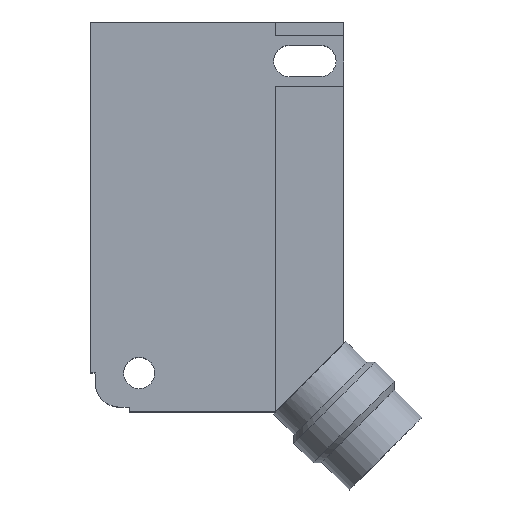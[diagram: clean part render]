
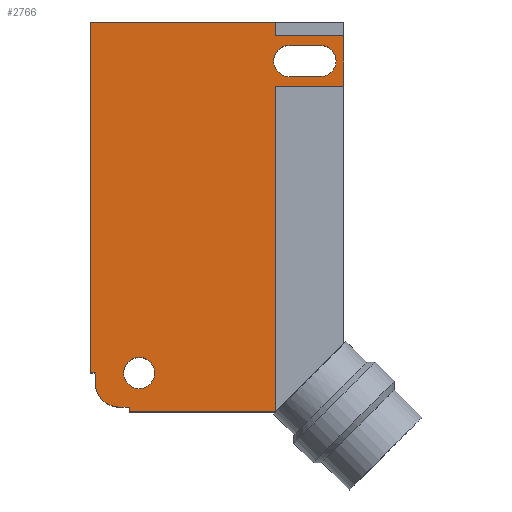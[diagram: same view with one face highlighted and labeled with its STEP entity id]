
A CAD part, top view. The second image highlights one B-rep face of the part: STEP entity #2766.
In plain terms, the highlighted planar face has unit normal (0, 0, 1).
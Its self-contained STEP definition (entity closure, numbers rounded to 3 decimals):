
#1687=CARTESIAN_POINT('',(13.005,18.6,6.));
#1688=VERTEX_POINT('',#1687);
#1695=CARTESIAN_POINT('',(13.005,13.4,6.));
#1696=VERTEX_POINT('',#1695);
#1697=CARTESIAN_POINT('',(13.005,18.6,6.));
#1698=DIRECTION('',(0.0,-1.0,0.0));
#1699=VECTOR('',#1698,5.2);
#1700=LINE('',#1697,#1699);
#1701=EDGE_CURVE('',#1688,#1696,#1700,.T.);
#2152=CARTESIAN_POINT('',(-12.995,-16.,6.));
#2153=VERTEX_POINT('',#2152);
#2160=CARTESIAN_POINT('',(-12.995,20.0,6.));
#2161=VERTEX_POINT('',#2160);
#2162=CARTESIAN_POINT('',(-12.995,-16.0,6.));
#2163=DIRECTION('',(0.0,1.0,0.0));
#2164=VECTOR('',#2163,36.0);
#2165=LINE('',#2162,#2164);
#2166=EDGE_CURVE('',#2153,#2161,#2165,.T.);
#2516=CARTESIAN_POINT('',(6.005,18.6,6.));
#2517=VERTEX_POINT('',#2516);
#2524=CARTESIAN_POINT('',(13.005,18.6,6.));
#2525=DIRECTION('',(-1.0,0.0,0.0));
#2526=VECTOR('',#2525,7.);
#2527=LINE('',#2524,#2526);
#2528=EDGE_CURVE('',#1688,#2517,#2527,.T.);
#2538=CARTESIAN_POINT('',(6.005,20.,6.));
#2539=VERTEX_POINT('',#2538);
#2548=CARTESIAN_POINT('',(6.005,18.6,6.));
#2549=DIRECTION('',(0.0,1.0,0.0));
#2550=VECTOR('',#2549,1.4);
#2551=LINE('',#2548,#2550);
#2552=EDGE_CURVE('',#2517,#2539,#2551,.T.);
#2587=CARTESIAN_POINT('',(6.005,13.4,6.));
#2588=VERTEX_POINT('',#2587);
#2589=CARTESIAN_POINT('',(6.005,13.4,6.));
#2590=DIRECTION('',(1.0,0.0,0.0));
#2591=VECTOR('',#2590,7.);
#2592=LINE('',#2589,#2591);
#2593=EDGE_CURVE('',#2588,#1696,#2592,.T.);
#2624=CARTESIAN_POINT('',(6.005,-20.0,6.));
#2625=VERTEX_POINT('',#2624);
#2626=CARTESIAN_POINT('',(6.005,-20.0,6.));
#2627=DIRECTION('',(0.0,1.0,0.0));
#2628=VECTOR('',#2627,33.4);
#2629=LINE('',#2626,#2628);
#2630=EDGE_CURVE('',#2625,#2588,#2629,.T.);
#2653=CARTESIAN_POINT('',(6.505,10.,6.));
#2654=DIRECTION('',(0.0,0.0,1.0));
#2655=DIRECTION('',(1.0,0.0,0.0));
#2656=AXIS2_PLACEMENT_3D('',#2653,#2654,#2655);
#2657=PLANE('',#2656);
#2658=ORIENTED_EDGE('',*,*,#2528,.T.);
#2659=ORIENTED_EDGE('',*,*,#2552,.T.);
#2660=CARTESIAN_POINT('',(-12.995,20.0,6.));
#2661=DIRECTION('',(1.0,0.0,0.0));
#2662=VECTOR('',#2661,19.);
#2663=LINE('',#2660,#2662);
#2664=EDGE_CURVE('',#2161,#2539,#2663,.T.);
#2665=ORIENTED_EDGE('',*,*,#2664,.F.);
#2666=ORIENTED_EDGE('',*,*,#2166,.F.);
#2667=CARTESIAN_POINT('',(-12.495,-16.,6.));
#2668=VERTEX_POINT('',#2667);
#2669=CARTESIAN_POINT('',(-12.995,-16.,6.));
#2670=DIRECTION('',(1.0,0.0,0.0));
#2671=VECTOR('',#2670,0.5);
#2672=LINE('',#2669,#2671);
#2673=EDGE_CURVE('',#2153,#2668,#2672,.T.);
#2674=ORIENTED_EDGE('',*,*,#2673,.T.);
#2675=CARTESIAN_POINT('',(-12.495,-17.0,6.));
#2676=VERTEX_POINT('',#2675);
#2677=CARTESIAN_POINT('',(-12.495,-16.,6.));
#2678=DIRECTION('',(0.0,-1.0,0.0));
#2679=VECTOR('',#2678,1.);
#2680=LINE('',#2677,#2679);
#2681=EDGE_CURVE('',#2668,#2676,#2680,.T.);
#2682=ORIENTED_EDGE('',*,*,#2681,.T.);
#2683=CARTESIAN_POINT('',(-9.995,-19.5,6.));
#2684=VERTEX_POINT('',#2683);
#2685=CARTESIAN_POINT('',(-9.995,-17.0,6.));
#2686=DIRECTION('',(0.0,0.0,1.0));
#2687=DIRECTION('',(-1.0,0.0,0.0));
#2688=AXIS2_PLACEMENT_3D('',#2685,#2686,#2687);
#2689=CIRCLE('',#2688,2.5);
#2690=EDGE_CURVE('',#2676,#2684,#2689,.T.);
#2691=ORIENTED_EDGE('',*,*,#2690,.T.);
#2692=CARTESIAN_POINT('',(-8.995,-19.5,6.));
#2693=VERTEX_POINT('',#2692);
#2694=CARTESIAN_POINT('',(-9.995,-19.5,6.));
#2695=DIRECTION('',(1.0,0.0,0.0));
#2696=VECTOR('',#2695,1.0);
#2697=LINE('',#2694,#2696);
#2698=EDGE_CURVE('',#2684,#2693,#2697,.T.);
#2699=ORIENTED_EDGE('',*,*,#2698,.T.);
#2700=CARTESIAN_POINT('',(-8.995,-20.0,6.));
#2701=VERTEX_POINT('',#2700);
#2702=CARTESIAN_POINT('',(-8.995,-19.5,6.));
#2703=DIRECTION('',(0.0,-1.0,0.0));
#2704=VECTOR('',#2703,0.5);
#2705=LINE('',#2702,#2704);
#2706=EDGE_CURVE('',#2693,#2701,#2705,.T.);
#2707=ORIENTED_EDGE('',*,*,#2706,.T.);
#2708=CARTESIAN_POINT('',(6.005,-20.0,6.));
#2709=DIRECTION('',(-1.0,0.0,0.0));
#2710=VECTOR('',#2709,15.);
#2711=LINE('',#2708,#2710);
#2712=EDGE_CURVE('',#2625,#2701,#2711,.T.);
#2713=ORIENTED_EDGE('',*,*,#2712,.F.);
#2714=ORIENTED_EDGE('',*,*,#2630,.T.);
#2715=ORIENTED_EDGE('',*,*,#2593,.T.);
#2716=ORIENTED_EDGE('',*,*,#1701,.F.);
#2717=EDGE_LOOP('',(#2658,#2659,#2665,#2666,#2674,#2682,#2691,#2699,#2707,#2713,#2714,#2715,#2716));
#2718=FACE_OUTER_BOUND('',#2717,.T.);
#2719=CARTESIAN_POINT('',(-6.395,-16.,6.));
#2720=VERTEX_POINT('',#2719);
#2721=CARTESIAN_POINT('',(-7.995,-16.,6.));
#2722=DIRECTION('',(0.0,0.0,-1.0));
#2723=DIRECTION('',(1.0,0.0,0.0));
#2724=AXIS2_PLACEMENT_3D('',#2721,#2722,#2723);
#2725=CIRCLE('',#2724,1.6);
#2726=EDGE_CURVE('',#2720,#2720,#2725,.T.);
#2727=ORIENTED_EDGE('',*,*,#2726,.T.);
#2728=EDGE_LOOP('',(#2727));
#2729=FACE_BOUND('',#2728,.T.);
#2730=CARTESIAN_POINT('',(7.405,14.4,6.));
#2731=VERTEX_POINT('',#2730);
#2732=CARTESIAN_POINT('',(7.405,17.6,6.));
#2733=VERTEX_POINT('',#2732);
#2734=CARTESIAN_POINT('',(7.405,16.,6.));
#2735=DIRECTION('',(0.0,0.0,-1.0));
#2736=DIRECTION('',(0.0,-1.0,0.0));
#2737=AXIS2_PLACEMENT_3D('',#2734,#2735,#2736);
#2738=CIRCLE('',#2737,1.6);
#2739=EDGE_CURVE('',#2731,#2733,#2738,.T.);
#2740=ORIENTED_EDGE('',*,*,#2739,.T.);
#2741=CARTESIAN_POINT('',(10.605,17.6,6.));
#2742=VERTEX_POINT('',#2741);
#2743=CARTESIAN_POINT('',(7.405,17.6,6.));
#2744=DIRECTION('',(1.0,0.0,0.0));
#2745=VECTOR('',#2744,3.2);
#2746=LINE('',#2743,#2745);
#2747=EDGE_CURVE('',#2733,#2742,#2746,.T.);
#2748=ORIENTED_EDGE('',*,*,#2747,.T.);
#2749=CARTESIAN_POINT('',(10.605,14.4,6.));
#2750=VERTEX_POINT('',#2749);
#2751=CARTESIAN_POINT('',(10.605,16.,6.));
#2752=DIRECTION('',(0.0,0.0,-1.0));
#2753=DIRECTION('',(0.0,1.0,0.0));
#2754=AXIS2_PLACEMENT_3D('',#2751,#2752,#2753);
#2755=CIRCLE('',#2754,1.6);
#2756=EDGE_CURVE('',#2742,#2750,#2755,.T.);
#2757=ORIENTED_EDGE('',*,*,#2756,.T.);
#2758=CARTESIAN_POINT('',(10.605,14.4,6.));
#2759=DIRECTION('',(-1.0,0.0,0.0));
#2760=VECTOR('',#2759,3.2);
#2761=LINE('',#2758,#2760);
#2762=EDGE_CURVE('',#2750,#2731,#2761,.T.);
#2763=ORIENTED_EDGE('',*,*,#2762,.T.);
#2764=EDGE_LOOP('',(#2740,#2748,#2757,#2763));
#2765=FACE_BOUND('',#2764,.T.);
#2766=ADVANCED_FACE('',(#2718,#2729,#2765),#2657,.T.);
